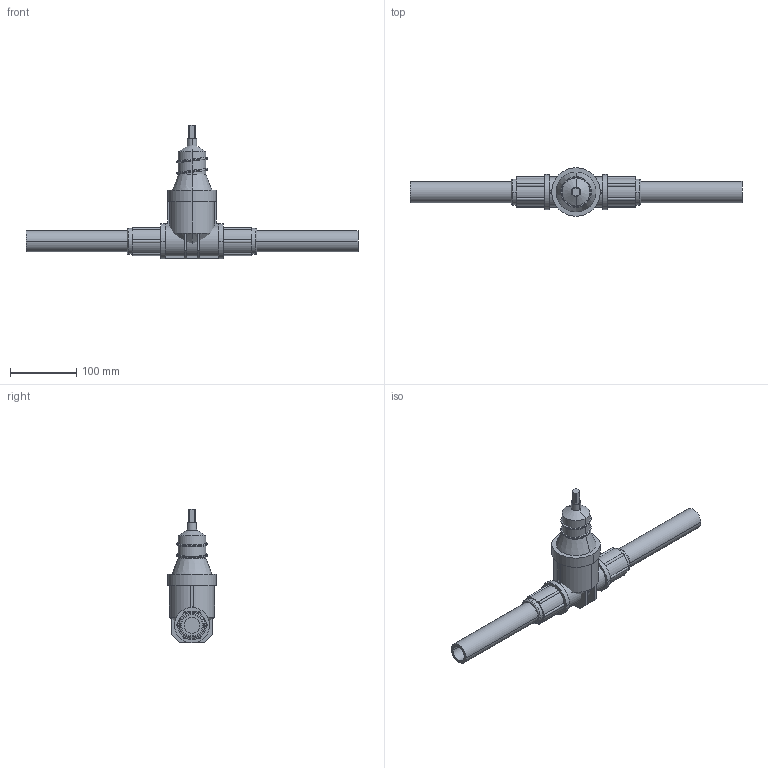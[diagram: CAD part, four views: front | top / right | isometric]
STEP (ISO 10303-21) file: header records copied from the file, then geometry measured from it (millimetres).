
FILE_DESCRIPTION(('STEP AP214'),'1');
FILE_NAME('S:/EK/USER/CAT6/3DHomepage/2670/2670-PN10-DN25.STP','2012-04-25T11:03:30',(' '),(' '),'Spatial InterOp 3D',' ',' ');
FILE_SCHEMA(('automotive_design'));
Length unit declared in the file: millimetre
Products named in the file (36): 3D-Objekt
Bounding box: 500 x 73 x 201.5 mm (x, y, z)
Volume: 825315.2 mm3; surface area: 187698.2 mm2
Topology: 36 solids, 36 shells, 198 faces, 380 edges, 254 vertices
Faces by surface type: plane 120, cylinder 56, torus 16, cone 6
Entity records: 7512 total; most frequent: DIRECTION 1022, CARTESIAN_POINT 868, ORIENTED_EDGE 760, AXIS2_PLACEMENT_3D 408, EDGE_CURVE 380, VERTEX_POINT 254, STYLED_ITEM 234, PRESENTATION_STYLE_ASSIGNMENT 234
